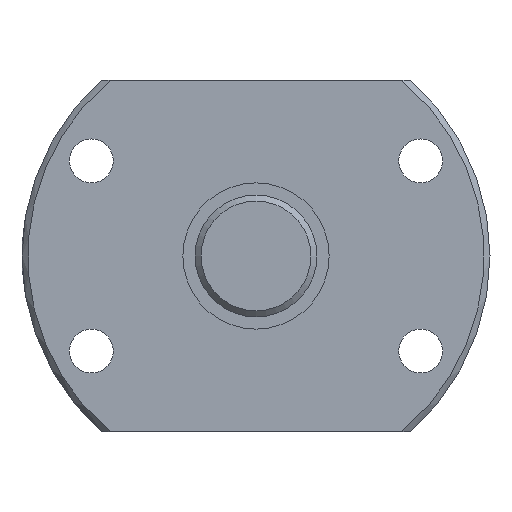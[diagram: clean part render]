
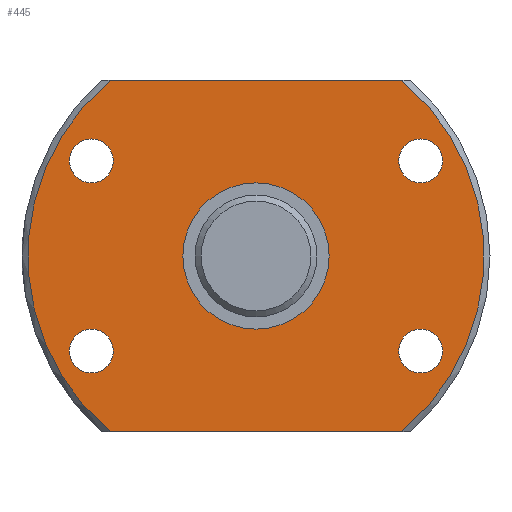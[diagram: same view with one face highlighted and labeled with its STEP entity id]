
A CAD part, left-side view. The second image highlights one B-rep face of the part: STEP entity #445.
In plain terms, the highlighted planar face has unit normal (-1, 0, 0).
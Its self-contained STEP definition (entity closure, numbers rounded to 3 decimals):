
#32=LINE('',#786,#40);
#33=LINE('',#790,#41);
#40=VECTOR('',#613,1000.);
#41=VECTOR('',#616,1000.);
#66=PLANE('',#515);
#102=ORIENTED_EDGE('',*,*,#196,.T.);
#103=ORIENTED_EDGE('',*,*,#197,.F.);
#104=ORIENTED_EDGE('',*,*,#198,.F.);
#105=ORIENTED_EDGE('',*,*,#199,.F.);
#106=ORIENTED_EDGE('',*,*,#186,.F.);
#107=ORIENTED_EDGE('',*,*,#200,.T.);
#108=ORIENTED_EDGE('',*,*,#201,.T.);
#109=ORIENTED_EDGE('',*,*,#202,.T.);
#110=ORIENTED_EDGE('',*,*,#203,.T.);
#186=EDGE_CURVE('',#234,#235,#273,.T.);
#196=EDGE_CURVE('',#244,#244,#278,.T.);
#197=EDGE_CURVE('',#245,#234,#32,.T.);
#198=EDGE_CURVE('',#246,#245,#279,.T.);
#199=EDGE_CURVE('',#235,#246,#33,.T.);
#200=EDGE_CURVE('',#247,#247,#280,.T.);
#201=EDGE_CURVE('',#248,#248,#281,.T.);
#202=EDGE_CURVE('',#249,#249,#282,.T.);
#203=EDGE_CURVE('',#250,#250,#283,.T.);
#234=VERTEX_POINT('',#738);
#235=VERTEX_POINT('',#740);
#244=VERTEX_POINT('',#785);
#245=VERTEX_POINT('',#787);
#246=VERTEX_POINT('',#789);
#247=VERTEX_POINT('',#792);
#248=VERTEX_POINT('',#794);
#249=VERTEX_POINT('',#796);
#250=VERTEX_POINT('',#798);
#273=CIRCLE('',#508,46.8);
#278=CIRCLE('',#516,15.);
#279=CIRCLE('',#517,46.8);
#280=CIRCLE('',#518,4.5);
#281=CIRCLE('',#519,4.5);
#282=CIRCLE('',#520,4.5);
#283=CIRCLE('',#521,4.5);
#314=EDGE_LOOP('',(#102));
#315=EDGE_LOOP('',(#103,#104,#105,#106));
#316=EDGE_LOOP('',(#107));
#317=EDGE_LOOP('',(#108));
#318=EDGE_LOOP('',(#109));
#319=EDGE_LOOP('',(#110));
#376=FACE_BOUND('',#314,.T.);
#377=FACE_BOUND('',#315,.T.);
#378=FACE_BOUND('',#316,.T.);
#379=FACE_BOUND('',#317,.T.);
#380=FACE_BOUND('',#318,.T.);
#381=FACE_BOUND('',#319,.T.);
#445=ADVANCED_FACE('',(#376,#377,#378,#379,#380,#381),#66,.T.);
#508=AXIS2_PLACEMENT_3D('',#739,#593,#594);
#515=AXIS2_PLACEMENT_3D('',#783,#609,#610);
#516=AXIS2_PLACEMENT_3D('',#784,#611,#612);
#517=AXIS2_PLACEMENT_3D('',#788,#614,#615);
#518=AXIS2_PLACEMENT_3D('',#791,#617,#618);
#519=AXIS2_PLACEMENT_3D('',#793,#619,#620);
#520=AXIS2_PLACEMENT_3D('',#795,#621,#622);
#521=AXIS2_PLACEMENT_3D('',#797,#623,#624);
#593=DIRECTION('',(1.,0.,0.));
#594=DIRECTION('',(0.,0.,-1.));
#609=DIRECTION('',(-1.,0.,0.));
#610=DIRECTION('',(0.,0.,1.));
#611=DIRECTION('',(1.,0.,0.));
#612=DIRECTION('',(0.,0.,-1.));
#613=DIRECTION('',(0.,-1.,0.));
#614=DIRECTION('',(1.,0.,0.));
#615=DIRECTION('',(0.,0.,-1.));
#616=DIRECTION('',(0.,1.,0.));
#617=DIRECTION('',(1.,0.,0.));
#618=DIRECTION('',(0.,0.,-1.));
#619=DIRECTION('',(1.,0.,0.));
#620=DIRECTION('',(0.,0.,-1.));
#621=DIRECTION('',(1.,0.,0.));
#622=DIRECTION('',(0.,0.,-1.));
#623=DIRECTION('',(1.,0.,0.));
#624=DIRECTION('',(0.,0.,-1.));
#738=CARTESIAN_POINT('',(0.,-29.904,36.));
#739=CARTESIAN_POINT('',(0.,0.,0.));
#740=CARTESIAN_POINT('',(0.,-29.904,-36.));
#783=CARTESIAN_POINT('',(0.,46.8,0.));
#784=CARTESIAN_POINT('',(0.,0.,0.));
#785=CARTESIAN_POINT('',(0.,0.,-15.));
#786=CARTESIAN_POINT('',(0.,48.1,36.));
#787=CARTESIAN_POINT('',(0.,29.904,36.));
#788=CARTESIAN_POINT('',(0.,0.,0.));
#789=CARTESIAN_POINT('',(0.,29.904,-36.));
#790=CARTESIAN_POINT('',(0.,-48.1,-36.));
#791=CARTESIAN_POINT('',(0.,-33.775,19.5));
#792=CARTESIAN_POINT('',(0.,-33.775,15.));
#793=CARTESIAN_POINT('',(0.,-33.775,-19.5));
#794=CARTESIAN_POINT('',(0.,-33.775,-24.));
#795=CARTESIAN_POINT('',(0.,33.775,-19.5));
#796=CARTESIAN_POINT('',(0.,33.775,-24.));
#797=CARTESIAN_POINT('',(0.,33.775,19.5));
#798=CARTESIAN_POINT('',(0.,33.775,15.));
